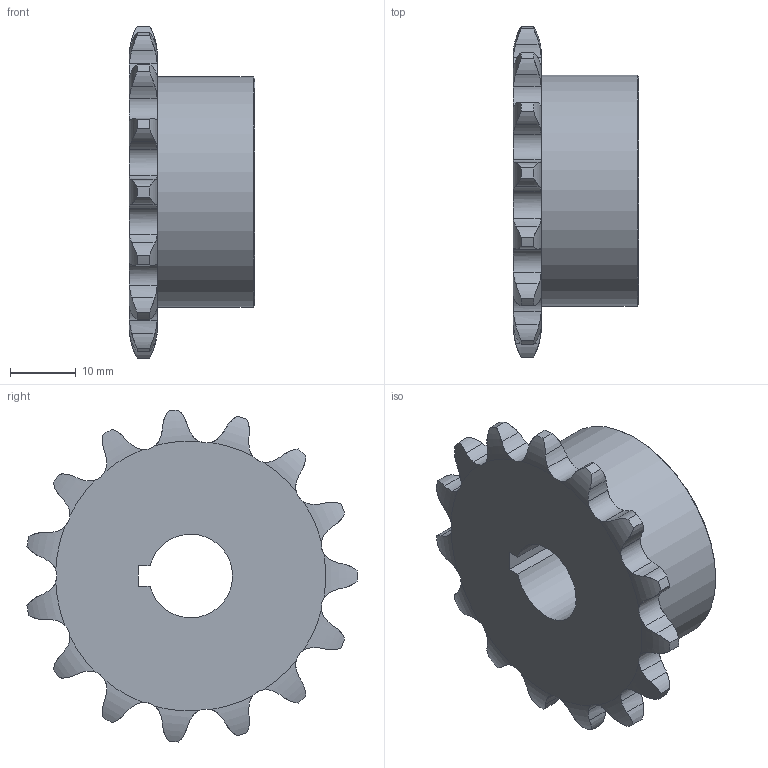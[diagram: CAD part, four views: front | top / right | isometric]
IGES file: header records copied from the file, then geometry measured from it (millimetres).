
Global section: file name: No Iges File Name specified; native system: AutoDesk Inventor R6.0; preprocessor: AutoDesk Inventor Iges Exporter R6.0; author: No Author specified; organization: No Organization specified; date: 20080105.192914; units: inch
Bounding box: 19.05 x 50.12 x 50.39 mm (x, y, z)
Surface area: 6153.3 mm2 (no closed solid volume)
Topology: 0 solids, 0 shells, 129 faces, 752 edges, 750 vertices
Faces by surface type: revolution 122, plane 6, bspline 1
